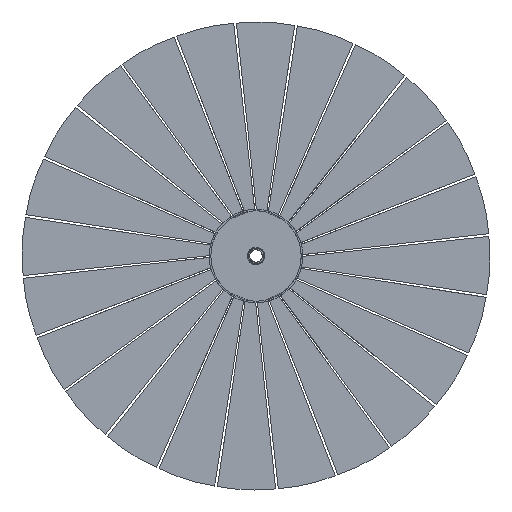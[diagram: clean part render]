
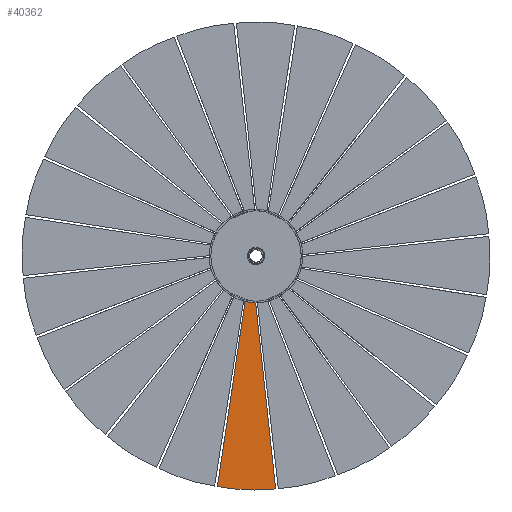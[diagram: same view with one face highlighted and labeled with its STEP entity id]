
A CAD part, left-side view. The second image highlights one B-rep face of the part: STEP entity #40362.
In plain terms, the highlighted planar face has unit normal (-1, 0, 0).
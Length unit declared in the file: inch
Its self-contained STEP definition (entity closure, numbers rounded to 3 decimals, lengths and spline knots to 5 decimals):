
#233 = CIRCLE ( 'NONE', #65959, 4.99186 ) ;
#1239 = DIRECTION ( 'NONE',  ( 0., 0., -1. ) ) ;
#3580 = CARTESIAN_POINT ( 'NONE',  ( 2.65591, -0.44962, -0.53642 ) ) ;
#7851 = PLANE ( 'NONE',  #37085 ) ;
#11145 = DIRECTION ( 'NONE',  ( 1., 0., 0. ) ) ;
#12739 = DIRECTION ( 'NONE',  ( 1., 0., 0. ) ) ;
#13669 = AXIS2_PLACEMENT_3D ( 'NONE', #36277, #11145, #58602 ) ;
#15916 = CARTESIAN_POINT ( 'NONE',  ( 2.65591, -0.39298, -1.28231 ) ) ;
#16964 = CARTESIAN_POINT ( 'NONE',  ( 2.65591, -0.94509, -6.4206 ) ) ;
#17180 = EDGE_CURVE ( 'NONE', #36012, #63832, #46937, .T. ) ;
#19740 = VERTEX_POINT ( 'NONE', #51489 ) ;
#24837 = CIRCLE ( 'NONE', #13669, 4.99186 ) ;
#32438 = EDGE_CURVE ( 'NONE', #33450, #34498, #24837, .T. ) ;
#32945 = CARTESIAN_POINT ( 'NONE',  ( 2.65591, -0.41178, -1.45731 ) ) ;
#33450 = VERTEX_POINT ( 'NONE', #55594 ) ;
#33681 = FACE_OUTER_BOUND ( 'NONE', #67325, .T. ) ;
#34498 = VERTEX_POINT ( 'NONE', #51313 ) ;
#36012 = VERTEX_POINT ( 'NONE', #41031 ) ;
#36277 = CARTESIAN_POINT ( 'NONE',  ( 2.65591, -0.41178, -1.45731 ) ) ;
#37085 = AXIS2_PLACEMENT_3D ( 'NONE', #55629, #12739, #1239 ) ;
#38112 = ORIENTED_EDGE ( 'NONE', *, *, #68190, .T. ) ;
#38337 = AXIS2_PLACEMENT_3D ( 'NONE', #3580, #44176, #54290 ) ;
#39200 = ORIENTED_EDGE ( 'NONE', *, *, #32438, .F. ) ;
#39213 = VECTOR ( 'NONE', #40944, 39.37008 ) ;
#39491 = ORIENTED_EDGE ( 'NONE', *, *, #17180, .F. ) ;
#40362 = ADVANCED_FACE ( 'NONE', ( #33681 ), #7851, .F. ) ;
#40944 = DIRECTION ( 'NONE',  ( 0., -0.149, 0.989 ) ) ;
#41031 = CARTESIAN_POINT ( 'NONE',  ( 2.65591, -0.39905, -1.33881 ) ) ;
#44176 = DIRECTION ( 'NONE',  ( 1., 0., 0. ) ) ;
#46585 = ORIENTED_EDGE ( 'NONE', *, *, #52440, .F. ) ;
#46869 = CARTESIAN_POINT ( 'NONE',  ( 2.65591, 0.52685, -6.36013 ) ) ;
#46937 = LINE ( 'NONE', #15916, #63732 ) ;
#51313 = CARTESIAN_POINT ( 'NONE',  ( 2.65591, 0.52685, -6.36013 ) ) ;
#51401 = LINE ( 'NONE', #46869, #39213 ) ;
#51489 = CARTESIAN_POINT ( 'NONE',  ( 2.65591, -0.23262, -1.31057 ) ) ;
#51719 = CIRCLE ( 'NONE', #38337, 0.80398 ) ;
#52440 = EDGE_CURVE ( 'NONE', #34498, #19740, #51401, .T. ) ;
#52869 = DIRECTION ( 'NONE',  ( 0., -0.107, -0.994 ) ) ;
#54290 = DIRECTION ( 'NONE',  ( 0., 0., -1. ) ) ;
#55248 = DIRECTION ( 'NONE',  ( 0., 0., -1. ) ) ;
#55584 = DIRECTION ( 'NONE',  ( 1., 0., 0. ) ) ;
#55594 = CARTESIAN_POINT ( 'NONE',  ( 2.65591, -0.41178, -6.44917 ) ) ;
#55629 = CARTESIAN_POINT ( 'NONE',  ( 2.65591, -0.41178, -1.45731 ) ) ;
#57738 = EDGE_CURVE ( 'NONE', #63832, #33450, #233, .T. ) ;
#58602 = DIRECTION ( 'NONE',  ( 0., 0., -1. ) ) ;
#60076 = ORIENTED_EDGE ( 'NONE', *, *, #57738, .F. ) ;
#63732 = VECTOR ( 'NONE', #52869, 39.37008 ) ;
#63832 = VERTEX_POINT ( 'NONE', #16964 ) ;
#65959 = AXIS2_PLACEMENT_3D ( 'NONE', #32945, #55584, #55248 ) ;
#67325 = EDGE_LOOP ( 'NONE', ( #39491, #38112, #46585, #39200, #60076 ) ) ;
#68190 = EDGE_CURVE ( 'NONE', #36012, #19740, #51719, .T. ) ;
